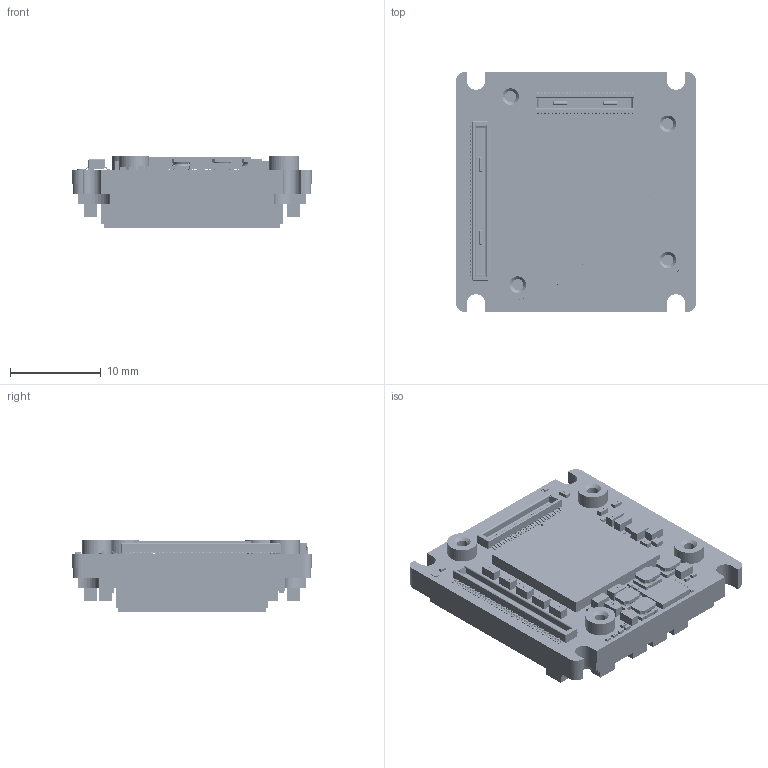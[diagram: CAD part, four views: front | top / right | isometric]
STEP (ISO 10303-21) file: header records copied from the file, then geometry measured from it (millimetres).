
FILE_DESCRIPTION (( 'STEP AP214' ), '1' );
FILE_NAME ('Alvium-Extended-Bare-Board-IMX421-422-426.STEP', '2022-12-21T13:51:32', ( '' ), ( '' ), 'SwSTEP 2.0', 'SolidWorks 2021', '' );
FILE_SCHEMA (( 'AUTOMOTIVE_DESIGN' ));
Length unit declared in the file: millimetre
Products named in the file (1): Alvium-Extended-Bare-Board-IMX421-422-426
Bounding box: 26.4 x 26.4 x 7.94 mm (x, y, z)
Volume: 3744.7 mm3; surface area: 5020.9 mm2
Topology: 170 solids, 170 shells, 11148 faces, 28423 edges, 18690 vertices
Faces by surface type: plane 5537, bspline 4319, cylinder 1228, torus 40, cone 24
Entity records: 705412 total; most frequent: CARTESIAN_POINT 339253, ORIENTED_EDGE 56798, DIRECTION 35869, EDGE_CURVE 28399, VERTEX_POINT 18690, VECTOR 17185, LINE 17185, EDGE_LOOP 12255
